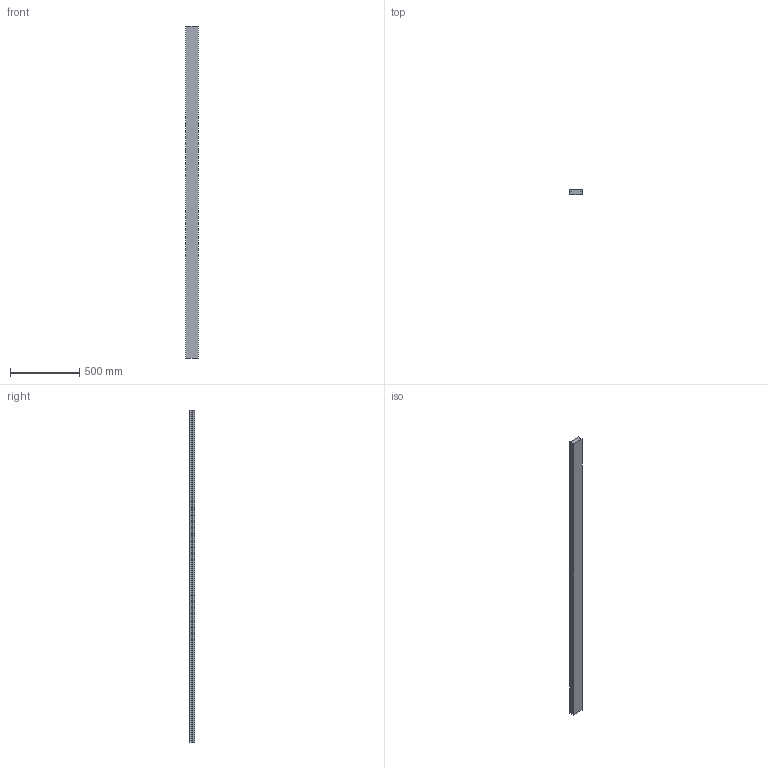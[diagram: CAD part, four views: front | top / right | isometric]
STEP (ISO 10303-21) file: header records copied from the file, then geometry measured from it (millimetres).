
FILE_DESCRIPTION (( 'STEP AP214' ), '1' );
FILE_NAME ('JB-58024.step', '2023-12-26T01:21:38', ( 'catia' ), ( 'HP Inc.' ), 'SwSTEP 2.0', 'SolidWorks 2021', '' );
FILE_SCHEMA (( 'AUTOMOTIVE_DESIGN' ));
Length unit declared in the file: millimetre
Products named in the file (1): JB-58024
Bounding box: 88 x 39 x 2400 mm (x, y, z)
Volume: 7673733.8 mm3; surface area: 676255.9 mm2
Topology: 1 solids, 1 shells, 372 faces, 750 edges, 500 vertices
Faces by surface type: plane 252, cylinder 120
Entity records: 9748 total; most frequent: DIRECTION 1736, CARTESIAN_POINT 1623, ORIENTED_EDGE 1500, EDGE_CURVE 750, AXIS2_PLACEMENT_3D 613, LINE 510, VECTOR 510, VERTEX_POINT 500
